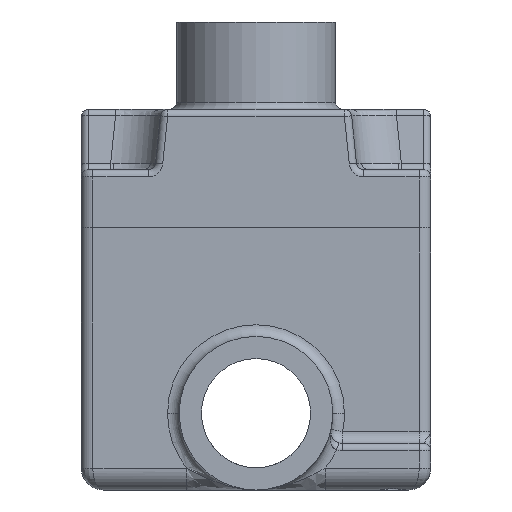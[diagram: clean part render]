
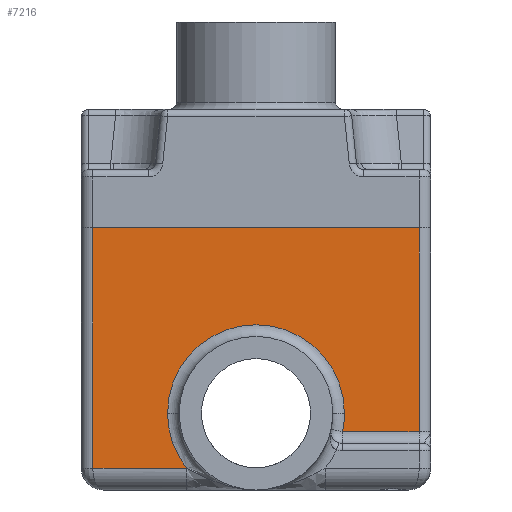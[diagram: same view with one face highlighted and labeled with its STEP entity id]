
A CAD part, front view. The second image highlights one B-rep face of the part: STEP entity #7216.
In plain terms, the highlighted planar face has unit normal (0, -1, 0).
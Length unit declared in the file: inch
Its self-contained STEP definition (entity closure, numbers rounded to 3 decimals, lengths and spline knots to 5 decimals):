
#91 = VERTEX_POINT ( 'NONE', #12221 ) ;
#226 = EDGE_CURVE ( 'NONE', #6332, #91, #7109, .T. ) ;
#252 = EDGE_CURVE ( 'NONE', #3973, #6139, #9104, .T. ) ;
#289 = DIRECTION ( 'NONE',  ( 1., 0., 0. ) ) ;
#327 = ORIENTED_EDGE ( 'NONE', *, *, #8645, .T. ) ;
#572 = EDGE_LOOP ( 'NONE', ( #8559, #760, #1748, #327, #7805, #3277, #4483, #9538 ) ) ;
#760 = ORIENTED_EDGE ( 'NONE', *, *, #1951, .T. ) ;
#1032 = EDGE_CURVE ( 'NONE', #1212, #6301, #7555, .T. ) ;
#1212 = VERTEX_POINT ( 'NONE', #7276 ) ;
#1380 = LINE ( 'NONE', #11983, #8897 ) ;
#1489 = CARTESIAN_POINT ( 'NONE',  ( 0.74236, -2.3125, 0.5 ) ) ;
#1748 = ORIENTED_EDGE ( 'NONE', *, *, #1032, .T. ) ;
#1794 = DIRECTION ( 'NONE',  ( -1., 0., 0. ) ) ;
#1867 = CARTESIAN_POINT ( 'NONE',  ( 1.4, -2.3125, 0.5 ) ) ;
#1951 = EDGE_CURVE ( 'NONE', #6139, #1212, #6775, .T. ) ;
#2014 = CARTESIAN_POINT ( 'NONE',  ( 0., -2.3125, 0.65925 ) ) ;
#2030 = DIRECTION ( 'NONE',  ( 0., 1., 0. ) ) ;
#2050 = AXIS2_PLACEMENT_3D ( 'NONE', #7906, #2030, #8904 ) ;
#2107 = CARTESIAN_POINT ( 'NONE',  ( -1.5, -2.3125, 2.25 ) ) ;
#2181 = DIRECTION ( 'NONE',  ( -1., 0., 0. ) ) ;
#2770 = CIRCLE ( 'NONE', #2050, 0.75925 ) ;
#3002 = DIRECTION ( 'NONE',  ( -1., 0., 0. ) ) ;
#3277 = ORIENTED_EDGE ( 'NONE', *, *, #9623, .T. ) ;
#3335 = VECTOR ( 'NONE', #9962, 39.37008 ) ;
#3639 = LINE ( 'NONE', #2107, #3335 ) ;
#3793 = DIRECTION ( 'NONE',  ( 1., 0., 0. ) ) ;
#3973 = VERTEX_POINT ( 'NONE', #11340 ) ;
#4119 = CARTESIAN_POINT ( 'NONE',  ( -1.5, -2.3125, 2.25 ) ) ;
#4189 = VECTOR ( 'NONE', #8928, 39.37008 ) ;
#4401 = CIRCLE ( 'NONE', #7437, 0.75925 ) ;
#4483 = ORIENTED_EDGE ( 'NONE', *, *, #226, .T. ) ;
#4598 = AXIS2_PLACEMENT_3D ( 'NONE', #4119, #8065, #2181 ) ;
#5394 = EDGE_CURVE ( 'NONE', #5447, #9174, #4401, .T. ) ;
#5447 = VERTEX_POINT ( 'NONE', #9126 ) ;
#6081 = FACE_OUTER_BOUND ( 'NONE', #572, .T. ) ;
#6139 = VERTEX_POINT ( 'NONE', #10180 ) ;
#6301 = VERTEX_POINT ( 'NONE', #11570 ) ;
#6332 = VERTEX_POINT ( 'NONE', #1867 ) ;
#6500 = VECTOR ( 'NONE', #10611, 39.37008 ) ;
#6727 = DIRECTION ( 'NONE',  ( 0., 1., 0. ) ) ;
#6775 = LINE ( 'NONE', #10629, #11656 ) ;
#7074 = PLANE ( 'NONE',  #4598 ) ;
#7109 = LINE ( 'NONE', #11252, #4189 ) ;
#7216 = ADVANCED_FACE ( 'NONE', ( #6081 ), #7074, .F. ) ;
#7276 = CARTESIAN_POINT ( 'NONE',  ( -0.59491, -2.3125, 0.1875 ) ) ;
#7437 = AXIS2_PLACEMENT_3D ( 'NONE', #2014, #8886, #3002 ) ;
#7555 = CIRCLE ( 'NONE', #12648, 0.75925 ) ;
#7805 = ORIENTED_EDGE ( 'NONE', *, *, #5394, .T. ) ;
#7906 = CARTESIAN_POINT ( 'NONE',  ( 0., -2.3125, 0.65925 ) ) ;
#8065 = DIRECTION ( 'NONE',  ( 0., 1., 0. ) ) ;
#8559 = ORIENTED_EDGE ( 'NONE', *, *, #252, .T. ) ;
#8645 = EDGE_CURVE ( 'NONE', #6301, #5447, #2770, .T. ) ;
#8886 = DIRECTION ( 'NONE',  ( 0., 1., 0. ) ) ;
#8893 = CARTESIAN_POINT ( 'NONE',  ( -1.4, -2.3125, 2.25 ) ) ;
#8897 = VECTOR ( 'NONE', #289, 39.37008 ) ;
#8904 = DIRECTION ( 'NONE',  ( -1., 0., 0. ) ) ;
#8928 = DIRECTION ( 'NONE',  ( 0., 0., 1. ) ) ;
#9104 = LINE ( 'NONE', #8893, #6500 ) ;
#9126 = CARTESIAN_POINT ( 'NONE',  ( 0.75925, -2.3125, 0.65925 ) ) ;
#9174 = VERTEX_POINT ( 'NONE', #1489 ) ;
#9538 = ORIENTED_EDGE ( 'NONE', *, *, #10831, .F. ) ;
#9623 = EDGE_CURVE ( 'NONE', #9174, #6332, #1380, .T. ) ;
#9962 = DIRECTION ( 'NONE',  ( 1., 0., 0. ) ) ;
#10180 = CARTESIAN_POINT ( 'NONE',  ( -1.4, -2.3125, 0.1875 ) ) ;
#10611 = DIRECTION ( 'NONE',  ( 0., 0., -1. ) ) ;
#10629 = CARTESIAN_POINT ( 'NONE',  ( -1.5, -2.3125, 0.1875 ) ) ;
#10734 = CARTESIAN_POINT ( 'NONE',  ( 0., -2.3125, 0.65925 ) ) ;
#10831 = EDGE_CURVE ( 'NONE', #3973, #91, #3639, .T. ) ;
#11252 = CARTESIAN_POINT ( 'NONE',  ( 1.4, -2.3125, 2.25 ) ) ;
#11340 = CARTESIAN_POINT ( 'NONE',  ( -1.4, -2.3125, 2.25 ) ) ;
#11570 = CARTESIAN_POINT ( 'NONE',  ( -0.75925, -2.3125, 0.65925 ) ) ;
#11656 = VECTOR ( 'NONE', #3793, 39.37008 ) ;
#11983 = CARTESIAN_POINT ( 'NONE',  ( -1.5, -2.3125, 0.5 ) ) ;
#12221 = CARTESIAN_POINT ( 'NONE',  ( 1.4, -2.3125, 2.25 ) ) ;
#12648 = AXIS2_PLACEMENT_3D ( 'NONE', #10734, #6727, #1794 ) ;
